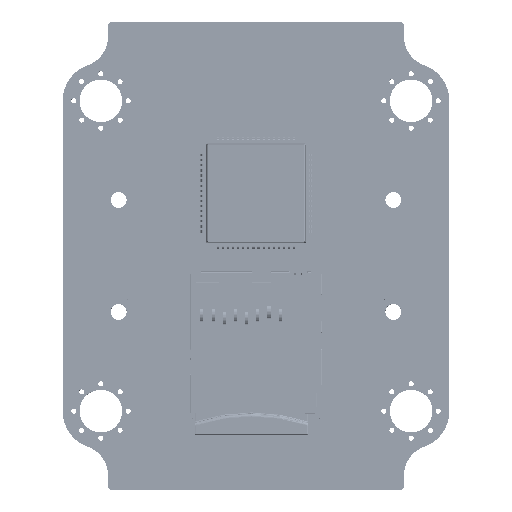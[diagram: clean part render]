
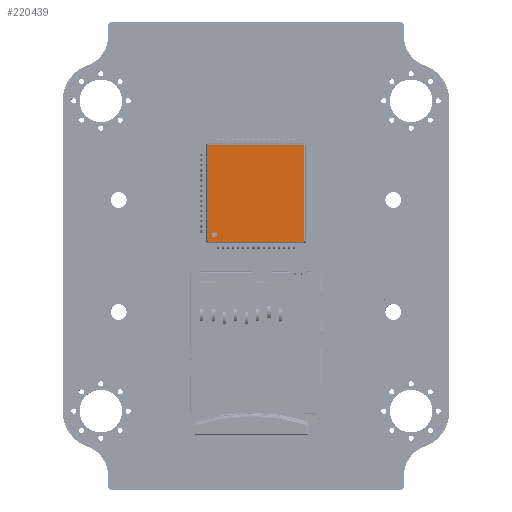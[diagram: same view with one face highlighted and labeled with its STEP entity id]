
A CAD part, top view. The second image highlights one B-rep face of the part: STEP entity #220439.
In plain terms, the highlighted planar face has unit normal (0, 0, 1).
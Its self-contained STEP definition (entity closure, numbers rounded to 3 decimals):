
#1580=FACE_BOUND('',#23366,.T.);
#2278=PLANE('',#232409);
#11737=FACE_OUTER_BOUND('',#23365,.T.);
#23365=EDGE_LOOP('',(#153588,#153589,#153590,#153591,#153592,#153593,#153594,
#153595));
#23366=EDGE_LOOP('',(#153596));
#35104=CIRCLE('',#232410,0.25);
#39812=LINE('',#309786,#68477);
#40274=LINE('',#310735,#68939);
#40275=LINE('',#310740,#68940);
#40276=LINE('',#310743,#68941);
#40277=LINE('',#310745,#68942);
#40278=LINE('',#310747,#68943);
#40279=LINE('',#310749,#68944);
#40280=LINE('',#310750,#68945);
#68477=VECTOR('',#248920,10.);
#68939=VECTOR('',#249874,10.);
#68940=VECTOR('',#249881,10.);
#68941=VECTOR('',#249884,10.);
#68942=VECTOR('',#249885,10.);
#68943=VECTOR('',#249886,10.);
#68944=VECTOR('',#249887,10.);
#68945=VECTOR('',#249888,10.);
#97134=VERTEX_POINT('',#309783);
#97135=VERTEX_POINT('',#309785);
#97376=VERTEX_POINT('',#310734);
#97377=VERTEX_POINT('',#310738);
#97378=VERTEX_POINT('',#310742);
#97379=VERTEX_POINT('',#310744);
#97380=VERTEX_POINT('',#310746);
#97381=VERTEX_POINT('',#310748);
#97382=VERTEX_POINT('',#310751);
#119178=EDGE_CURVE('',#97134,#97135,#39812,.T.);
#119645=EDGE_CURVE('',#97135,#97376,#40274,.T.);
#119648=EDGE_CURVE('',#97377,#97134,#40275,.T.);
#119649=EDGE_CURVE('',#97378,#97377,#40276,.T.);
#119650=EDGE_CURVE('',#97379,#97378,#40277,.T.);
#119651=EDGE_CURVE('',#97380,#97379,#40278,.T.);
#119652=EDGE_CURVE('',#97381,#97380,#40279,.T.);
#119653=EDGE_CURVE('',#97376,#97381,#40280,.T.);
#119654=EDGE_CURVE('',#97382,#97382,#35104,.T.);
#153588=ORIENTED_EDGE('',*,*,#119178,.F.);
#153589=ORIENTED_EDGE('',*,*,#119648,.F.);
#153590=ORIENTED_EDGE('',*,*,#119649,.F.);
#153591=ORIENTED_EDGE('',*,*,#119650,.F.);
#153592=ORIENTED_EDGE('',*,*,#119651,.F.);
#153593=ORIENTED_EDGE('',*,*,#119652,.F.);
#153594=ORIENTED_EDGE('',*,*,#119653,.F.);
#153595=ORIENTED_EDGE('',*,*,#119645,.F.);
#153596=ORIENTED_EDGE('',*,*,#119654,.F.);
#220439=ADVANCED_FACE('',(#11737,#1580),#2278,.T.);
#232409=AXIS2_PLACEMENT_3D('',#310741,#249882,#249883);
#232410=AXIS2_PLACEMENT_3D('',#310752,#249889,#249890);
#248920=DIRECTION('',(0.,1.,0.));
#249874=DIRECTION('',(0.707,0.707,0.));
#249881=DIRECTION('',(-0.707,0.707,0.));
#249882=DIRECTION('center_axis',(0.,0.,1.));
#249883=DIRECTION('ref_axis',(0.712,0.702,0.));
#249884=DIRECTION('',(-1.,0.,0.));
#249885=DIRECTION('',(-0.707,-0.707,0.));
#249886=DIRECTION('',(0.,-1.,0.));
#249887=DIRECTION('',(0.707,-0.707,0.));
#249888=DIRECTION('',(1.,0.,0.));
#249889=DIRECTION('center_axis',(0.,0.,1.));
#249890=DIRECTION('ref_axis',(1.,0.,0.));
#309783=CARTESIAN_POINT('',(-4.746,1.448,3.15));
#309785=CARTESIAN_POINT('',(-4.746,10.852,3.15));
#309786=CARTESIAN_POINT('',(-4.746,1.448,3.15));
#310734=CARTESIAN_POINT('',(-4.702,10.896,3.15));
#310735=CARTESIAN_POINT('',(-4.746,10.852,3.15));
#310738=CARTESIAN_POINT('',(-4.702,1.404,3.15));
#310740=CARTESIAN_POINT('',(-4.702,1.404,3.15));
#310741=CARTESIAN_POINT('Origin',(-4.787,1.432,3.15));
#310742=CARTESIAN_POINT('',(4.702,1.404,3.15));
#310743=CARTESIAN_POINT('',(4.702,1.404,3.15));
#310744=CARTESIAN_POINT('',(4.746,1.448,3.15));
#310745=CARTESIAN_POINT('',(4.746,1.448,3.15));
#310746=CARTESIAN_POINT('',(4.746,10.852,3.15));
#310747=CARTESIAN_POINT('',(4.746,10.852,3.15));
#310748=CARTESIAN_POINT('',(4.702,10.896,3.15));
#310749=CARTESIAN_POINT('',(4.702,10.896,3.15));
#310750=CARTESIAN_POINT('',(-4.702,10.896,3.15));
#310751=CARTESIAN_POINT('',(-4.337,2.063,3.15));
#310752=CARTESIAN_POINT('Origin',(-4.087,2.063,3.15));
